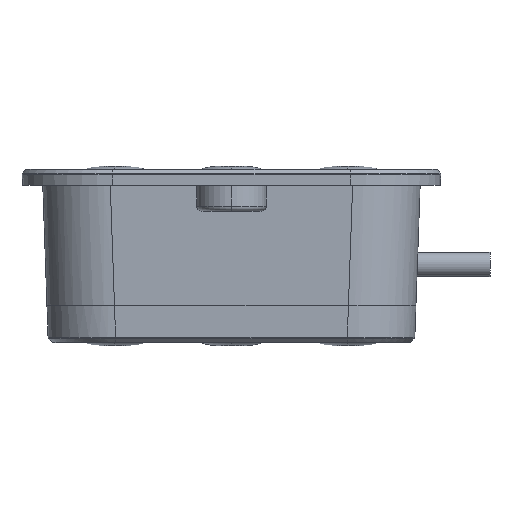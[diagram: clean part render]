
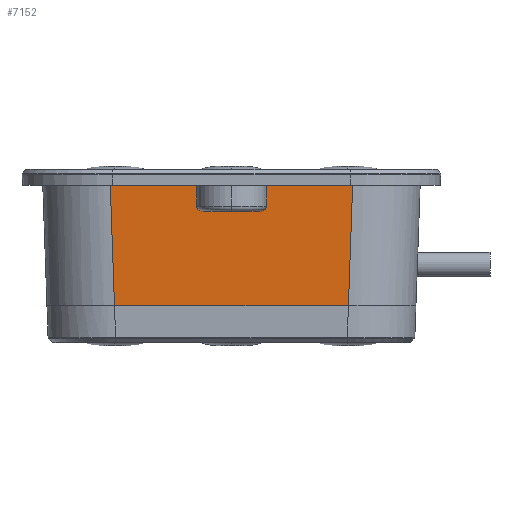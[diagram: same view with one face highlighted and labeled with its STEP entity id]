
A CAD part, left-side view. The second image highlights one B-rep face of the part: STEP entity #7152.
In plain terms, the highlighted planar face has unit normal (-0.999, 0, -0.035).
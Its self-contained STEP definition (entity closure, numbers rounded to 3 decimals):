
#2156 = ORIENTED_EDGE ( 'NONE', *, *, #48854, .T. ) ;
#4624 = CARTESIAN_POINT ( 'NONE',  ( -84.718, 25.977, -4.406 ) ) ;
#4892 = ORIENTED_EDGE ( 'NONE', *, *, #15544, .T. ) ;
#6886 = CARTESIAN_POINT ( 'NONE',  ( -84.75, 26.009, -3.5 ) ) ;
#7152 = ADVANCED_FACE ( 'NONE', ( #33551 ), #49797, .T. ) ;
#14049 = EDGE_LOOP ( 'NONE', ( #51777, #2156, #65524, #4892 ) ) ;
#14108 = LINE ( 'NONE', #22205, #82627 ) ;
#15544 = EDGE_CURVE ( 'NONE', #53219, #15855, #14108, .T. ) ;
#15855 = VERTEX_POINT ( 'NONE', #84410 ) ;
#22205 = CARTESIAN_POINT ( 'NONE',  ( -84.718, -25.977, -4.406 ) ) ;
#33551 = FACE_OUTER_BOUND ( 'NONE', #14049, .T. ) ;
#35869 = VERTEX_POINT ( 'NONE', #6886 ) ;
#36562 = EDGE_CURVE ( 'NONE', #73215, #53219, #89436, .T. ) ;
#38057 = VECTOR ( 'NONE', #79794, 1000. ) ;
#43167 = DIRECTION ( 'NONE',  ( 0., 1., 0. ) ) ;
#43638 = DIRECTION ( 'NONE',  ( -0.035, -0.035, 0.999 ) ) ;
#45395 = CARTESIAN_POINT ( 'NONE',  ( -83.849, 25.108, -29.3 ) ) ;
#48854 = EDGE_CURVE ( 'NONE', #35869, #73215, #70620, .T. ) ;
#49797 = PLANE ( 'NONE',  #88532 ) ;
#51777 = ORIENTED_EDGE ( 'NONE', *, *, #56595, .T. ) ;
#53219 = VERTEX_POINT ( 'NONE', #53528 ) ;
#53528 = CARTESIAN_POINT ( 'NONE',  ( -83.849, -25.108, -29.3 ) ) ;
#56292 = DIRECTION ( 'NONE',  ( 0.035, -0.035, -0.999 ) ) ;
#56595 = EDGE_CURVE ( 'NONE', #15855, #35869, #74773, .T. ) ;
#57128 = DIRECTION ( 'NONE',  ( -0.035, 0., 0.999 ) ) ;
#63778 = VECTOR ( 'NONE', #56292, 1000. ) ;
#65524 = ORIENTED_EDGE ( 'NONE', *, *, #36562, .T. ) ;
#66772 = VECTOR ( 'NONE', #43167, 1000. ) ;
#70620 = LINE ( 'NONE', #4624, #63778 ) ;
#72405 = DIRECTION ( 'NONE',  ( -0.999, 0., -0.035 ) ) ;
#73145 = CARTESIAN_POINT ( 'NONE',  ( -84.75, 0., -3.5 ) ) ;
#73215 = VERTEX_POINT ( 'NONE', #45395 ) ;
#74773 = LINE ( 'NONE', #73145, #66772 ) ;
#79794 = DIRECTION ( 'NONE',  ( 0., -1., 0. ) ) ;
#82627 = VECTOR ( 'NONE', #43638, 1000. ) ;
#84410 = CARTESIAN_POINT ( 'NONE',  ( -84.75, -26.009, -3.5 ) ) ;
#86837 = CARTESIAN_POINT ( 'NONE',  ( -83.849, 0., -29.3 ) ) ;
#88532 = AXIS2_PLACEMENT_3D ( 'NONE', #93799, #72405, #57128 ) ;
#89436 = LINE ( 'NONE', #86837, #38057 ) ;
#93799 = CARTESIAN_POINT ( 'NONE',  ( -84.75, 0., -3.5 ) ) ;
